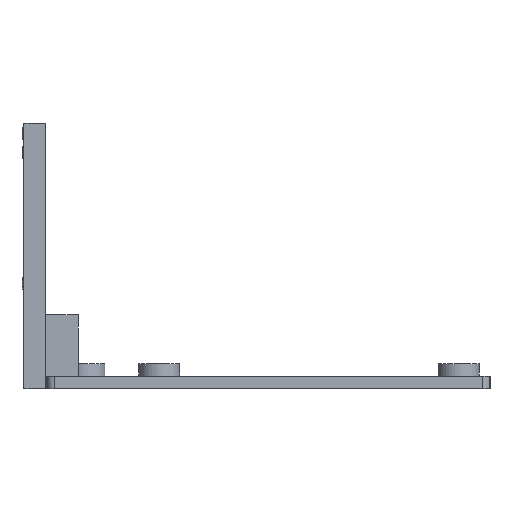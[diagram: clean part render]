
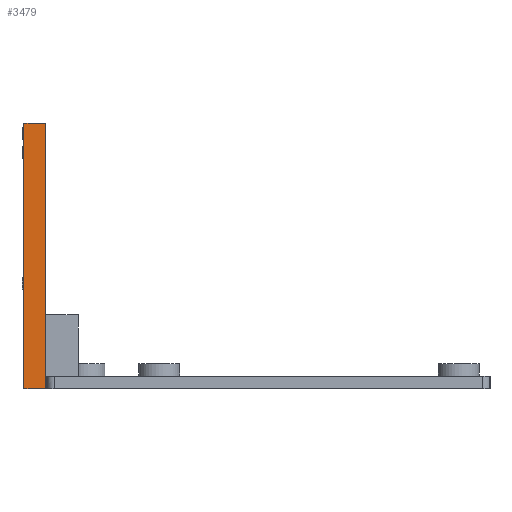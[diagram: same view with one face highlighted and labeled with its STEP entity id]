
A CAD part, left-side view. The second image highlights one B-rep face of the part: STEP entity #3479.
In plain terms, the highlighted planar face has unit normal (-1, 0, 0).
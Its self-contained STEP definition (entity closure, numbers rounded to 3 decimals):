
#1199 = PLANE('',#1200);
#1200 = AXIS2_PLACEMENT_3D('',#1201,#1202,#1203);
#1201 = CARTESIAN_POINT('',(3.8,276.2,3.2));
#1202 = DIRECTION('',(0.,1.,0.));
#1203 = DIRECTION('',(0.,0.,1.));
#2106 = VERTEX_POINT('',#2107);
#2107 = CARTESIAN_POINT('',(3.8,276.2,3.2));
#2123 = PLANE('',#2124);
#2124 = AXIS2_PLACEMENT_3D('',#2125,#2126,#2127);
#2125 = CARTESIAN_POINT('',(3.8,276.2,3.2));
#2126 = DIRECTION('',(0.,0.,1.));
#2127 = DIRECTION('',(1.,0.,0.));
#2135 = EDGE_CURVE('',#2106,#2136,#2138,.T.);
#2136 = VERTEX_POINT('',#2137);
#2137 = CARTESIAN_POINT('',(3.8,276.2,45.7));
#2138 = SURFACE_CURVE('',#2139,(#2143,#2150),.PCURVE_S1.);
#2139 = LINE('',#2140,#2141);
#2140 = CARTESIAN_POINT('',(3.8,276.2,3.2));
#2141 = VECTOR('',#2142,1.);
#2142 = DIRECTION('',(0.,0.,1.));
#2143 = PCURVE('',#1199,#2144);
#2144 = DEFINITIONAL_REPRESENTATION('',(#2145),#2149);
#2145 = LINE('',#2146,#2147);
#2146 = CARTESIAN_POINT('',(0.,0.));
#2147 = VECTOR('',#2148,1.);
#2148 = DIRECTION('',(1.,0.));
#2149 = ( GEOMETRIC_REPRESENTATION_CONTEXT(2) 
PARAMETRIC_REPRESENTATION_CONTEXT() REPRESENTATION_CONTEXT('2D SPACE',''
  ) );
#2150 = PCURVE('',#2151,#2156);
#2151 = PLANE('',#2152);
#2152 = AXIS2_PLACEMENT_3D('',#2153,#2154,#2155);
#2153 = CARTESIAN_POINT('',(3.8,276.2,3.2));
#2154 = DIRECTION('',(1.,0.,0.));
#2155 = DIRECTION('',(0.,0.,1.));
#2156 = DEFINITIONAL_REPRESENTATION('',(#2157),#2161);
#2157 = LINE('',#2158,#2159);
#2158 = CARTESIAN_POINT('',(0.,0.));
#2159 = VECTOR('',#2160,1.);
#2160 = DIRECTION('',(1.,0.));
#2161 = ( GEOMETRIC_REPRESENTATION_CONTEXT(2) 
PARAMETRIC_REPRESENTATION_CONTEXT() REPRESENTATION_CONTEXT('2D SPACE',''
  ) );
#2179 = PLANE('',#2180);
#2180 = AXIS2_PLACEMENT_3D('',#2181,#2182,#2183);
#2181 = CARTESIAN_POINT('',(3.8,276.2,45.7));
#2182 = DIRECTION('',(0.,0.,1.));
#2183 = DIRECTION('',(1.,0.,0.));
#3358 = EDGE_CURVE('',#2106,#3359,#3361,.T.);
#3359 = VERTEX_POINT('',#3360);
#3360 = CARTESIAN_POINT('',(3.8,279.7,3.2));
#3361 = SURFACE_CURVE('',#3362,(#3366,#3373),.PCURVE_S1.);
#3362 = LINE('',#3363,#3364);
#3363 = CARTESIAN_POINT('',(3.8,276.2,3.2));
#3364 = VECTOR('',#3365,1.);
#3365 = DIRECTION('',(0.,1.,0.));
#3366 = PCURVE('',#2123,#3367);
#3367 = DEFINITIONAL_REPRESENTATION('',(#3368),#3372);
#3368 = LINE('',#3369,#3370);
#3369 = CARTESIAN_POINT('',(0.,0.));
#3370 = VECTOR('',#3371,1.);
#3371 = DIRECTION('',(0.,1.));
#3372 = ( GEOMETRIC_REPRESENTATION_CONTEXT(2) 
PARAMETRIC_REPRESENTATION_CONTEXT() REPRESENTATION_CONTEXT('2D SPACE',''
  ) );
#3373 = PCURVE('',#2151,#3374);
#3374 = DEFINITIONAL_REPRESENTATION('',(#3375),#3379);
#3375 = LINE('',#3376,#3377);
#3376 = CARTESIAN_POINT('',(0.,0.));
#3377 = VECTOR('',#3378,1.);
#3378 = DIRECTION('',(0.,-1.));
#3379 = ( GEOMETRIC_REPRESENTATION_CONTEXT(2) 
PARAMETRIC_REPRESENTATION_CONTEXT() REPRESENTATION_CONTEXT('2D SPACE',''
  ) );
#3419 = PLANE('',#3420);
#3420 = AXIS2_PLACEMENT_3D('',#3421,#3422,#3423);
#3421 = CARTESIAN_POINT('',(3.8,279.7,3.2));
#3422 = DIRECTION('',(0.,1.,0.));
#3423 = DIRECTION('',(0.,0.,1.));
#3479 = ADVANCED_FACE('',(#3480),#2151,.F.);
#3480 = FACE_BOUND('',#3481,.F.);
#3481 = EDGE_LOOP('',(#3482,#3483,#3484,#3507));
#3482 = ORIENTED_EDGE('',*,*,#2135,.F.);
#3483 = ORIENTED_EDGE('',*,*,#3358,.T.);
#3484 = ORIENTED_EDGE('',*,*,#3485,.T.);
#3485 = EDGE_CURVE('',#3359,#3486,#3488,.T.);
#3486 = VERTEX_POINT('',#3487);
#3487 = CARTESIAN_POINT('',(3.8,279.7,45.7));
#3488 = SURFACE_CURVE('',#3489,(#3493,#3500),.PCURVE_S1.);
#3489 = LINE('',#3490,#3491);
#3490 = CARTESIAN_POINT('',(3.8,279.7,3.2));
#3491 = VECTOR('',#3492,1.);
#3492 = DIRECTION('',(0.,0.,1.));
#3493 = PCURVE('',#2151,#3494);
#3494 = DEFINITIONAL_REPRESENTATION('',(#3495),#3499);
#3495 = LINE('',#3496,#3497);
#3496 = CARTESIAN_POINT('',(0.,-3.5));
#3497 = VECTOR('',#3498,1.);
#3498 = DIRECTION('',(1.,0.));
#3499 = ( GEOMETRIC_REPRESENTATION_CONTEXT(2) 
PARAMETRIC_REPRESENTATION_CONTEXT() REPRESENTATION_CONTEXT('2D SPACE',''
  ) );
#3500 = PCURVE('',#3419,#3501);
#3501 = DEFINITIONAL_REPRESENTATION('',(#3502),#3506);
#3502 = LINE('',#3503,#3504);
#3503 = CARTESIAN_POINT('',(0.,0.));
#3504 = VECTOR('',#3505,1.);
#3505 = DIRECTION('',(1.,0.));
#3506 = ( GEOMETRIC_REPRESENTATION_CONTEXT(2) 
PARAMETRIC_REPRESENTATION_CONTEXT() REPRESENTATION_CONTEXT('2D SPACE',''
  ) );
#3507 = ORIENTED_EDGE('',*,*,#3508,.F.);
#3508 = EDGE_CURVE('',#2136,#3486,#3509,.T.);
#3509 = SURFACE_CURVE('',#3510,(#3514,#3521),.PCURVE_S1.);
#3510 = LINE('',#3511,#3512);
#3511 = CARTESIAN_POINT('',(3.8,276.2,45.7));
#3512 = VECTOR('',#3513,1.);
#3513 = DIRECTION('',(0.,1.,0.));
#3514 = PCURVE('',#2151,#3515);
#3515 = DEFINITIONAL_REPRESENTATION('',(#3516),#3520);
#3516 = LINE('',#3517,#3518);
#3517 = CARTESIAN_POINT('',(42.5,0.));
#3518 = VECTOR('',#3519,1.);
#3519 = DIRECTION('',(0.,-1.));
#3520 = ( GEOMETRIC_REPRESENTATION_CONTEXT(2) 
PARAMETRIC_REPRESENTATION_CONTEXT() REPRESENTATION_CONTEXT('2D SPACE',''
  ) );
#3521 = PCURVE('',#2179,#3522);
#3522 = DEFINITIONAL_REPRESENTATION('',(#3523),#3527);
#3523 = LINE('',#3524,#3525);
#3524 = CARTESIAN_POINT('',(0.,0.));
#3525 = VECTOR('',#3526,1.);
#3526 = DIRECTION('',(0.,1.));
#3527 = ( GEOMETRIC_REPRESENTATION_CONTEXT(2) 
PARAMETRIC_REPRESENTATION_CONTEXT() REPRESENTATION_CONTEXT('2D SPACE',''
  ) );
